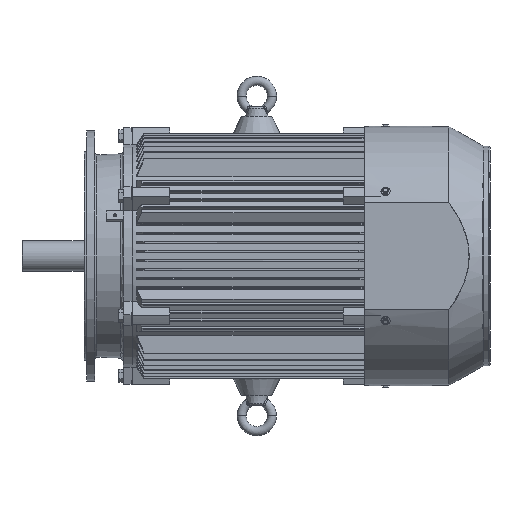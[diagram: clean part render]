
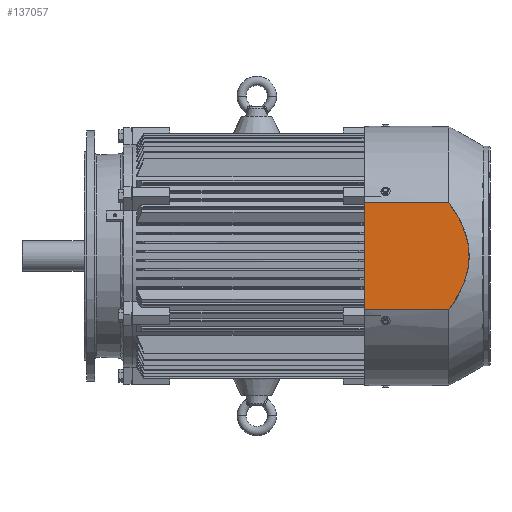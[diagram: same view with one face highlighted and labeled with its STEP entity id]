
A CAD part, front view. The second image highlights one B-rep face of the part: STEP entity #137057.
In plain terms, the highlighted planar face has unit normal (0, -1, 0).
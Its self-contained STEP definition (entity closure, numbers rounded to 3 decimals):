
#52203 = VERTEX_POINT ( 'NONE', #186830 ) ;
#52212 = EDGE_CURVE ( 'NONE', #52203, #52254, #186807, .T. ) ;
#52254 = VERTEX_POINT ( 'NONE', #186909 ) ;
#52283 = VERTEX_POINT ( 'NONE', #186997 ) ;
#52291 = EDGE_CURVE ( 'NONE', #52283, #52294, #187069, .T. ) ;
#52294 = VERTEX_POINT ( 'NONE', #187063 ) ;
#52494 = EDGE_CURVE ( 'NONE', #52294, #52203, #187645, .T. ) ;
#52581 = EDGE_CURVE ( 'NONE', #52254, #52283, #189227, .T. ) ;
#66934 = DIRECTION ( 'NONE',  ( 0., 0., 1. ) ) ;
#66936 = DIRECTION ( 'NONE',  ( 0., 1., 0. ) ) ;
#66938 = CARTESIAN_POINT ( 'NONE',  ( 230.261, -310., -73.654 ) ) ;
#66939 = AXIS2_PLACEMENT_3D ( 'NONE', #66938, #66936, #66934 ) ;
#66941 = PLANE ( 'NONE',  #66939 ) ;
#66947 = FACE_OUTER_BOUND ( 'NONE', #137060, .T. ) ;
#137057 = ADVANCED_FACE ( 'NONE', ( #66947 ), #66941, .F. ) ;
#137060 = EDGE_LOOP ( 'NONE', ( #137202, #137204, #137208, #137211 ) ) ;
#137202 = ORIENTED_EDGE ( 'NONE', *, *, #52291, .F. ) ;
#137204 = ORIENTED_EDGE ( 'NONE', *, *, #52581, .F. ) ;
#137208 = ORIENTED_EDGE ( 'NONE', *, *, #52212, .F. ) ;
#137211 = ORIENTED_EDGE ( 'NONE', *, *, #52494, .F. ) ;
#186802 = DIRECTION ( 'NONE',  ( 0., 0., 1. ) ) ;
#186804 = VECTOR ( 'NONE', #186802, 1000. ) ;
#186805 = CARTESIAN_POINT ( 'NONE',  ( -142.06, -310., 330. ) ) ;
#186807 = LINE ( 'NONE', #186805, #186804 ) ;
#186830 = CARTESIAN_POINT ( 'NONE',  ( -142.06, -310., 0. ) ) ;
#186909 = CARTESIAN_POINT ( 'NONE',  ( -142.06, -310., 221.933 ) ) ;
#186997 = CARTESIAN_POINT ( 'NONE',  ( 142.06, -310., 221.933 ) ) ;
#187063 = CARTESIAN_POINT ( 'NONE',  ( 142.06, -310., 0. ) ) ;
#187064 = DIRECTION ( 'NONE',  ( 0., 0., -1. ) ) ;
#187066 = VECTOR ( 'NONE', #187064, 1000. ) ;
#187068 = CARTESIAN_POINT ( 'NONE',  ( 142.06, -310., 330. ) ) ;
#187069 = LINE ( 'NONE', #187068, #187066 ) ;
#187632 = DIRECTION ( 'NONE',  ( -1., 0., 0. ) ) ;
#187634 = VECTOR ( 'NONE', #187632, 1000. ) ;
#187636 = CARTESIAN_POINT ( 'NONE',  ( 0., -310., 0. ) ) ;
#187645 = LINE ( 'NONE', #187636, #187634 ) ;
#189183 = CARTESIAN_POINT ( 'NONE',  ( 87.117, -310., 254.909 ) ) ;
#189184 = CARTESIAN_POINT ( 'NONE',  ( 81.269, -310., 257.574 ) ) ;
#189185 = CARTESIAN_POINT ( 'NONE',  ( 72.31, -310., 261.236 ) ) ;
#189186 = CARTESIAN_POINT ( 'NONE',  ( 69.293, -310., 262.401 ) ) ;
#189187 = CARTESIAN_POINT ( 'NONE',  ( 64.716, -310., 264.058 ) ) ;
#189188 = CARTESIAN_POINT ( 'NONE',  ( 63.181, -310., 264.595 ) ) ;
#189189 = CARTESIAN_POINT ( 'NONE',  ( 60.11, -310., 265.632 ) ) ;
#189190 = CARTESIAN_POINT ( 'NONE',  ( 58.571, -310., 266.134 ) ) ;
#189191 = CARTESIAN_POINT ( 'NONE',  ( 50.859, -310., 268.55 ) ) ;
#189192 = CARTESIAN_POINT ( 'NONE',  ( 44.637, -310., 270.197 ) ) ;
#189193 = CARTESIAN_POINT ( 'NONE',  ( 32.078, -310., 272.868 ) ) ;
#189194 = CARTESIAN_POINT ( 'NONE',  ( 25.741, -310., 273.893 ) ) ;
#189195 = CARTESIAN_POINT ( 'NONE',  ( 16.143, -310., 274.928 ) ) ;
#189196 = CARTESIAN_POINT ( 'NONE',  ( 12.929, -310., 275.189 ) ) ;
#189197 = CARTESIAN_POINT ( 'NONE',  ( 8.082, -310., 275.452 ) ) ;
#189198 = CARTESIAN_POINT ( 'NONE',  ( 6.463, -310., 275.518 ) ) ;
#189199 = CARTESIAN_POINT ( 'NONE',  ( 3.216, -310., 275.605 ) ) ;
#189200 = CARTESIAN_POINT ( 'NONE',  ( 1.586, -310., 275.627 ) ) ;
#189201 = CARTESIAN_POINT ( 'NONE',  ( -13.036, -310., 275.624 ) ) ;
#189202 = CARTESIAN_POINT ( 'NONE',  ( -25.805, -310., 274.203 ) ) ;
#189203 = CARTESIAN_POINT ( 'NONE',  ( -44.655, -310., 270.192 ) ) ;
#189204 = CARTESIAN_POINT ( 'NONE',  ( -50.887, -310., 268.543 ) ) ;
#189205 = CARTESIAN_POINT ( 'NONE',  ( -58.619, -310., 266.118 ) ) ;
#189206 = CARTESIAN_POINT ( 'NONE',  ( -60.165, -310., 265.614 ) ) ;
#189207 = CARTESIAN_POINT ( 'NONE',  ( -63.24, -310., 264.574 ) ) ;
#189208 = CARTESIAN_POINT ( 'NONE',  ( -64.769, -310., 264.039 ) ) ;
#189209 = CARTESIAN_POINT ( 'NONE',  ( -69.333, -310., 262.386 ) ) ;
#189210 = CARTESIAN_POINT ( 'NONE',  ( -72.342, -310., 261.223 ) ) ;
#189211 = CARTESIAN_POINT ( 'NONE',  ( -81.28, -310., 257.568 ) ) ;
#189212 = CARTESIAN_POINT ( 'NONE',  ( -87.118, -310., 254.909 ) ) ;
#189214 = CARTESIAN_POINT ( 'NONE',  ( -98.589, -310., 249.208 ) ) ;
#189215 = CARTESIAN_POINT ( 'NONE',  ( -104.221, -310., 246.167 ) ) ;
#189216 = CARTESIAN_POINT ( 'NONE',  ( -115.309, -310., 239.757 ) ) ;
#189218 = CARTESIAN_POINT ( 'NONE',  ( -120.765, -310., 236.387 ) ) ;
#189219 = CARTESIAN_POINT ( 'NONE',  ( -131.522, -310., 229.365 ) ) ;
#189220 = CARTESIAN_POINT ( 'NONE',  ( -136.825, -310., 225.711 ) ) ;
#189222 = CARTESIAN_POINT ( 'NONE',  ( -142.06, -310., 221.933 ) ) ;
#189227 = B_SPLINE_CURVE_WITH_KNOTS ( 'NONE', 3,
 ( #189222, #189220, #189219, #189218, #189216, #189215, #189214, #189212, #189211, #189210, #189209, #189208, #189207, #189206, #189205, #189204, #189203, #189202, #189201, #189200, #189199, #189198, #189197, #189196, #189195, #189194, #189193, #189192, #189191, #189190, #189189, #189188, #189187, #189186, #189185, #189184, #189183, #189262, #189261, #189260, #189259, #189258, #189257, #189256 ),
 .UNSPECIFIED., .F., .F.,
 ( 4, 2, 2, 2, 2, 2, 2, 2, 2, 2, 2, 2, 2, 2, 2, 2, 2, 2, 2, 2, 2, 4 ),
 ( 0.306, 0.325, 0.345, 0.364, 0.383, 0.392, 0.397, 0.402, 0.421, 0.459, 0.464, 0.468, 0.478, 0.497, 0.516, 0.521, 0.526, 0.535, 0.554, 0.573, 0.592, 0.611 ),
 .UNSPECIFIED. ) ;
#189256 = CARTESIAN_POINT ( 'NONE',  ( 142.06, -310., 221.933 ) ) ;
#189257 = CARTESIAN_POINT ( 'NONE',  ( 136.831, -310., 225.706 ) ) ;
#189258 = CARTESIAN_POINT ( 'NONE',  ( 131.534, -310., 229.357 ) ) ;
#189259 = CARTESIAN_POINT ( 'NONE',  ( 120.782, -310., 236.376 ) ) ;
#189260 = CARTESIAN_POINT ( 'NONE',  ( 115.328, -310., 239.745 ) ) ;
#189261 = CARTESIAN_POINT ( 'NONE',  ( 104.237, -310., 246.158 ) ) ;
#189262 = CARTESIAN_POINT ( 'NONE',  ( 98.601, -310., 249.201 ) ) ;
